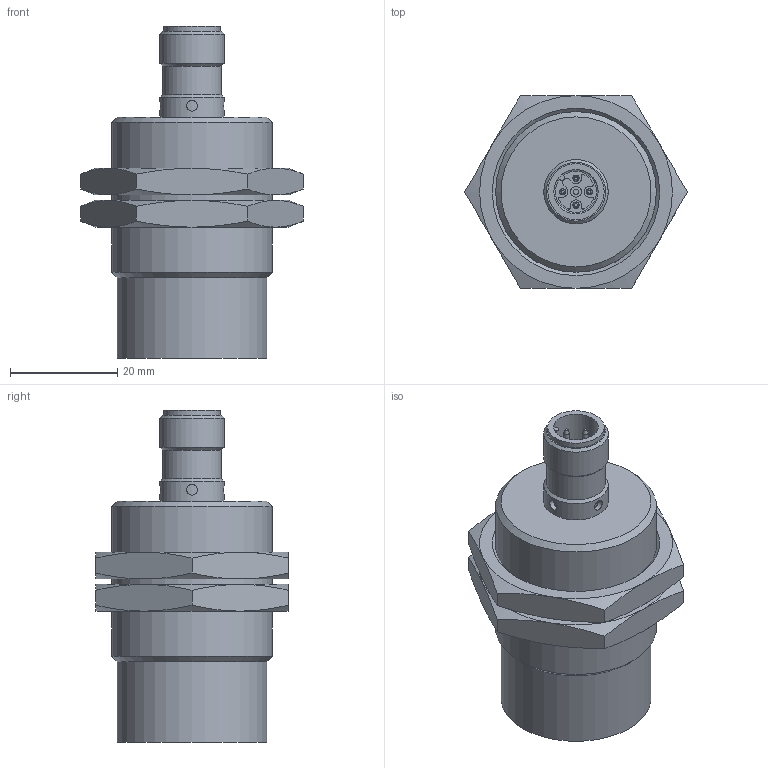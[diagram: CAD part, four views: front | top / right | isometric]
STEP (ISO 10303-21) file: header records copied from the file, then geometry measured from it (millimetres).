
FILE_DESCRIPTION((''),'2;1');
FILE_NAME('C:\TurckZip\Ni-M30-X-H1.stp','2007-11-09T14:22:25',('IKOROL'),(''),'Autodesk Inventor 2008','Autodesk Inventor 2008','');
FILE_SCHEMA(('AUTOMOTIVE_DESIGN { 1 2 10303 214 0 1 1 1 }'));
Length unit declared in the file: millimetre
Products named in the file (1): Part23
Bounding box: 41.57 x 36 x 62 mm (x, y, z)
Volume: 35530.4 mm3; surface area: 9820.9 mm2
Topology: 1 solids, 5 shells, 168 faces, 358 edges, 227 vertices
Faces by surface type: plane 64, cylinder 62, cone 37, torus 4, bspline 1
Full cylindrical faces by diameter (mm): 1 x17, 1.2 x1, 1.8 x8, 2 x10, 8.3 x1, 9.9 x1, 10 x1, 10.5 x1, 11 x1, 12 x2, 28 x1, 30 x3
Entity records: 4671 total; most frequent: CARTESIAN_POINT 1196, DIRECTION 706, ORIENTED_EDGE 544, AXIS2_PLACEMENT_3D 324, EDGE_LOOP 277, EDGE_CURVE 272, VERTEX_POINT 207, STYLED_ITEM 169
